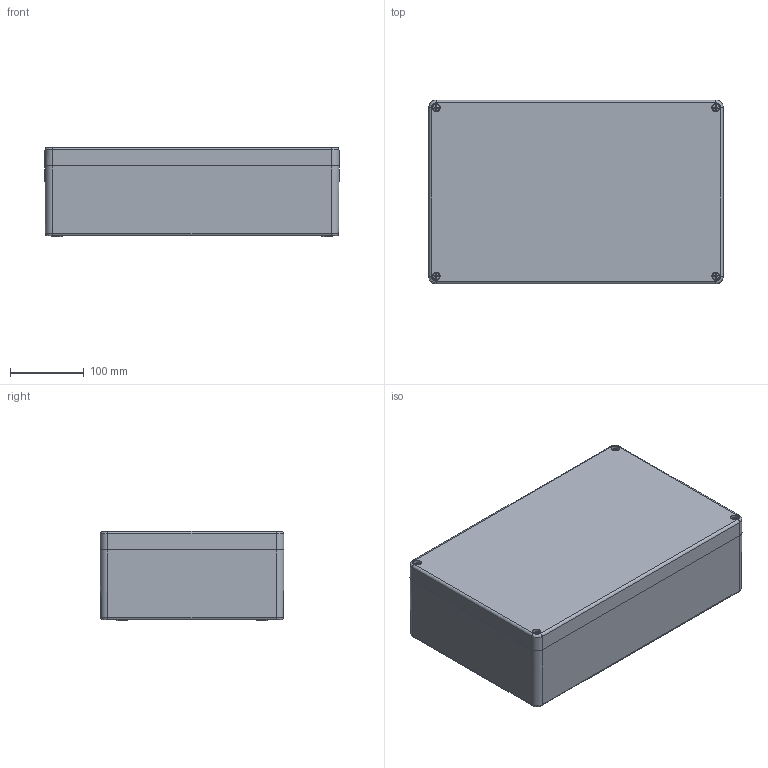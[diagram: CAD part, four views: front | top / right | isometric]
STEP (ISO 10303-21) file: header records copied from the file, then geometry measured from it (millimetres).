
FILE_DESCRIPTION(/* description */ (''),/* implementation_level */ '2;1');
FILE_NAME(/* name */ 'E:\Eng\Customer Service\Drawings\working on 1590ZGRP\STEP\1590ZGRP243\1590ZGRP243.iam.stp',/* time_stamp */ '2016-02-02T08:21:15-05:00',/* author */ ('kbond'),/* organization */ (''),/* preprocessor_version */ 'ST-DEVELOPER v16.1',/* originating_system */ 'Autodesk Inventor 2016',/* authorisation */ '');
FILE_SCHEMA (('AUTOMOTIVE_DESIGN { 1 0 10303 214 3 1 1 }'));
Length unit declared in the file: millimetre
Products named in the file (6): 1590ZGRP243 box; 1590ZGRP243PL; 1590ZGRP243 lid; (screw M6-1X 30mm PN); 1590ZGRP243 gasket; 1590ZGRP243
Assembly tree (8 placements, depth 2):
  1590ZGRP243
    1590ZGRP243 box
    1590ZGRP243PL
    1590ZGRP243 lid
    (screw M6-1X 30mm PN)  x4
    1590ZGRP243 gasket
Bounding box: 400 x 250 x 121.25 mm (x, y, z)
Volume: 2358925.3 mm3; surface area: 905444.9 mm2
Topology: 8 solids, 8 shells, 455 faces, 1160 edges, 762 vertices
Faces by surface type: plane 253, cone 84, cylinder 74, torus 28, bspline 8, sphere 8
Full cylindrical faces by diameter (mm): 4 x8, 4.917 x10, 5.28 x4, 5.88 x4, 6 x4, 6.4 x4, 6.8 x4, 7 x6, 10.8 x4
Entity records: 10573 total; most frequent: CARTESIAN_POINT 2040, DIRECTION 1824, ORIENTED_EDGE 1598, EDGE_CURVE 799, AXIS2_PLACEMENT_3D 685, VERTEX_POINT 557, EDGE_LOOP 478, LINE 454
